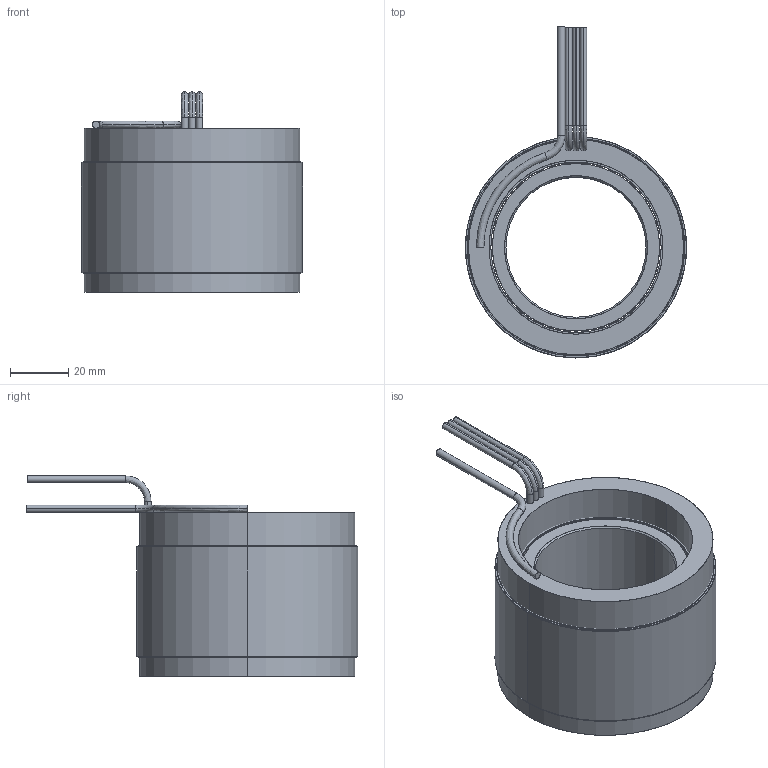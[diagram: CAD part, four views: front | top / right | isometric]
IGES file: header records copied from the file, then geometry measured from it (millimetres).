
Start section: SolidWorks IGES file using analytic representation for surfaces
Global section: file name: \\fs01.aveox.local\user documents\eng\My Documents\6100392-XX UAV STANDARD STATOR AND ROTOR SET 3.0 OD 27S24P\6100392-04.IGS; native system: SolidWorks 2016; preprocessor: SolidWorks 2016; author: eng; date: 201214.190137; units: inch
Bounding box: 76.2 x 114.3 x 68.96 mm (x, y, z)
Surface area: 77011.2 mm2 (no closed solid volume)
Topology: 0 solids, 0 shells, 75 faces, 2284 edges, 2284 vertices
Faces by surface type: revolution 46, bspline 29
